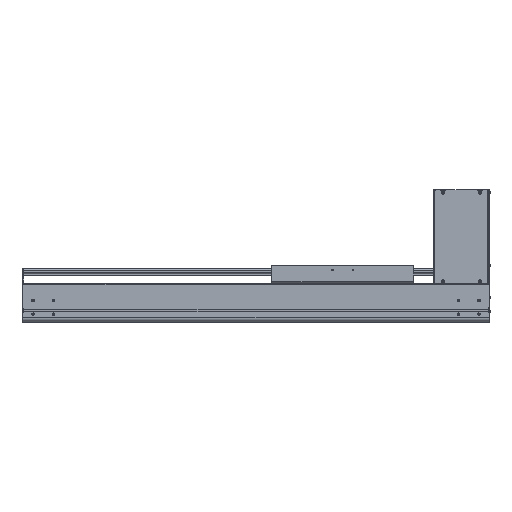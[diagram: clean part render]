
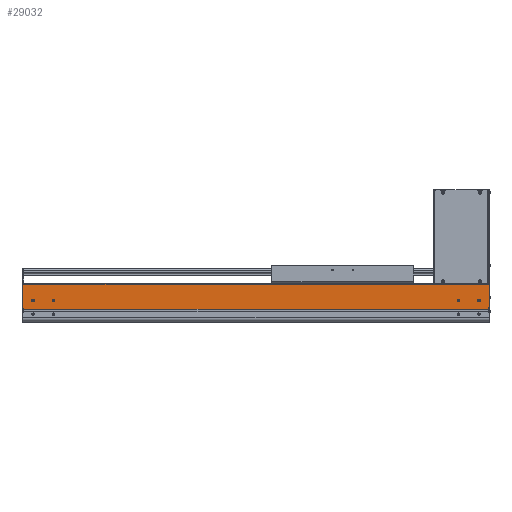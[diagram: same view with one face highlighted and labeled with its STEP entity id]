
A CAD part, top view. The second image highlights one B-rep face of the part: STEP entity #29032.
In plain terms, the highlighted planar face has unit normal (0, 0, 1).
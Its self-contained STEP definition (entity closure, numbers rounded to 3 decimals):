
#534=CARTESIAN_POINT('',(0.,94.,107.));
#7982=DIRECTION('',(-1.,0.,0.));
#7983=VECTOR('',#7982,1148.5);
#7984=CARTESIAN_POINT('',(0.,93.5,107.));
#7985=LINE('',#7984,#7983);
#8012=CARTESIAN_POINT('',(-1123.5,54.,107.));
#8013=DIRECTION('',(0.,0.,-1.));
#8014=DIRECTION('',(1.,0.,0.));
#8015=AXIS2_PLACEMENT_3D('',#8012,#8013,#8014);
#8017=CARTESIAN_POINT('',(-1123.5,54.,107.));
#8018=DIRECTION('',(0.,0.,-1.));
#8019=DIRECTION('',(-1.,0.,0.));
#8020=AXIS2_PLACEMENT_3D('',#8017,#8018,#8019);
#8022=CARTESIAN_POINT('',(-1073.5,54.,107.));
#8023=DIRECTION('',(0.,0.,-1.));
#8024=DIRECTION('',(1.,0.,0.));
#8025=AXIS2_PLACEMENT_3D('',#8022,#8023,#8024);
#8027=CARTESIAN_POINT('',(-1073.5,54.,107.));
#8028=DIRECTION('',(0.,0.,-1.));
#8029=DIRECTION('',(-1.,0.,0.));
#8030=AXIS2_PLACEMENT_3D('',#8027,#8028,#8029);
#8032=CARTESIAN_POINT('',(-23.5,54.,107.));
#8033=DIRECTION('',(0.,0.,-1.));
#8034=DIRECTION('',(1.,0.,0.));
#8035=AXIS2_PLACEMENT_3D('',#8032,#8033,#8034);
#8037=CARTESIAN_POINT('',(-23.5,54.,107.));
#8038=DIRECTION('',(0.,0.,-1.));
#8039=DIRECTION('',(-1.,0.,0.));
#8040=AXIS2_PLACEMENT_3D('',#8037,#8038,#8039);
#8042=CARTESIAN_POINT('',(-73.5,54.,107.));
#8043=DIRECTION('',(0.,0.,-1.));
#8044=DIRECTION('',(1.,0.,0.));
#8045=AXIS2_PLACEMENT_3D('',#8042,#8043,#8044);
#8047=CARTESIAN_POINT('',(-73.5,54.,107.));
#8048=DIRECTION('',(0.,0.,-1.));
#8049=DIRECTION('',(-1.,0.,0.));
#8050=AXIS2_PLACEMENT_3D('',#8047,#8048,#8049);
#8052=DIRECTION('',(0.,-1.,0.));
#8053=VECTOR('',#8052,2.55);
#8054=CARTESIAN_POINT('',(-1146.5,34.65,107.));
#8055=LINE('',#8054,#8053);
#8056=DIRECTION('',(0.,-1.,0.));
#8057=VECTOR('',#8056,58.85);
#8058=CARTESIAN_POINT('',(-1148.5,93.5,107.));
#8059=LINE('',#8058,#8057);
#8060=DIRECTION('',(0.,-1.,0.));
#8061=VECTOR('',#8060,0.5);
#8062=CARTESIAN_POINT('',(0.,94.,107.));
#8063=LINE('',#8062,#8061);
#8064=DIRECTION('',(0.,1.,0.));
#8065=VECTOR('',#8064,58.35);
#8066=CARTESIAN_POINT('',(1.5,35.65,107.));
#8067=LINE('',#8066,#8065);
#8068=DIRECTION('',(0.,1.,0.));
#8069=VECTOR('',#8068,3.55);
#8070=CARTESIAN_POINT('',(0.,32.1,107.));
#8071=LINE('',#8070,#8069);
#8072=DIRECTION('',(1.,0.,0.));
#8073=VECTOR('',#8072,1146.5);
#8074=CARTESIAN_POINT('',(-1146.5,32.1,107.));
#8075=LINE('',#8074,#8073);
#8184=DIRECTION('',(1.,0.,0.));
#8185=VECTOR('',#8184,2.);
#8186=CARTESIAN_POINT('',(-1148.5,34.65,107.));
#8187=LINE('',#8186,#8185);
#8212=DIRECTION('',(-1.,0.,0.));
#8213=VECTOR('',#8212,1.5);
#8214=CARTESIAN_POINT('',(1.5,94.,107.));
#8215=LINE('',#8214,#8213);
#8216=DIRECTION('',(1.,0.,0.));
#8217=VECTOR('',#8216,1.5);
#8218=CARTESIAN_POINT('',(0.,35.65,107.));
#8219=LINE('',#8218,#8217);
#14908=CARTESIAN_POINT('',(1.5,94.,107.));
#14909=VERTEX_POINT('',#14908);
#14910=CARTESIAN_POINT('',(1.5,35.65,107.));
#14911=VERTEX_POINT('',#14910);
#14952=VERTEX_POINT('',#534);
#14984=CARTESIAN_POINT('',(-1148.5,34.65,107.));
#14985=VERTEX_POINT('',#14984);
#14986=CARTESIAN_POINT('',(-1148.5,93.5,107.));
#14987=VERTEX_POINT('',#14986);
#15212=CARTESIAN_POINT('',(-1146.5,32.1,107.));
#15213=VERTEX_POINT('',#15212);
#15263=CARTESIAN_POINT('',(0.,32.1,107.));
#15265=VERTEX_POINT('',#15263);
#15686=CARTESIAN_POINT('',(-1121.,54.,107.));
#15687=CARTESIAN_POINT('',(-1126.,54.,107.));
#15688=VERTEX_POINT('',#15686);
#15689=VERTEX_POINT('',#15687);
#15690=CARTESIAN_POINT('',(-1071.,54.,107.));
#15691=CARTESIAN_POINT('',(-1076.,54.,107.));
#15692=VERTEX_POINT('',#15690);
#15693=VERTEX_POINT('',#15691);
#15694=CARTESIAN_POINT('',(-21.,54.,107.));
#15695=CARTESIAN_POINT('',(-26.,54.,107.));
#15696=VERTEX_POINT('',#15694);
#15697=VERTEX_POINT('',#15695);
#15698=CARTESIAN_POINT('',(-71.,54.,107.));
#15699=CARTESIAN_POINT('',(-76.,54.,107.));
#15700=VERTEX_POINT('',#15698);
#15701=VERTEX_POINT('',#15699);
#17536=CARTESIAN_POINT('',(0.,35.65,107.));
#17537=VERTEX_POINT('',#17536);
#17782=CARTESIAN_POINT('',(0.,93.5,107.));
#17783=VERTEX_POINT('',#17782);
#18125=CARTESIAN_POINT('',(-1146.5,34.65,107.));
#18126=VERTEX_POINT('',#18125);
#28987=CARTESIAN_POINT('',(-573.25,62.8,107.));
#28988=DIRECTION('',(0.,0.,1.));
#28989=DIRECTION('',(0.,-1.,0.));
#28990=AXIS2_PLACEMENT_3D('',#28987,#28988,#28989);
#28991=PLANE('',#28990);
#28992=ORIENTED_EDGE('',*,*,#20232,.F.);
#28994=ORIENTED_EDGE('',*,*,#28993,.F.);
#28995=ORIENTED_EDGE('',*,*,#26605,.F.);
#28996=ORIENTED_EDGE('',*,*,#28976,.F.);
#28997=ORIENTED_EDGE('',*,*,#19345,.F.);
#28999=ORIENTED_EDGE('',*,*,#28998,.F.);
#29000=ORIENTED_EDGE('',*,*,#21231,.F.);
#29002=ORIENTED_EDGE('',*,*,#29001,.F.);
#29003=ORIENTED_EDGE('',*,*,#20993,.F.);
#29005=ORIENTED_EDGE('',*,*,#29004,.F.);
#29006=EDGE_LOOP('',(#28992,#28994,#28995,#28996,#28997,#28999,#29000,#29002,
#29003,#29005));
#29007=FACE_OUTER_BOUND('',#29006,.F.);
#29009=ORIENTED_EDGE('',*,*,#29008,.F.);
#29011=ORIENTED_EDGE('',*,*,#29010,.F.);
#29012=EDGE_LOOP('',(#29009,#29011));
#29013=FACE_BOUND('',#29012,.F.);
#29015=ORIENTED_EDGE('',*,*,#29014,.F.);
#29017=ORIENTED_EDGE('',*,*,#29016,.F.);
#29018=EDGE_LOOP('',(#29015,#29017));
#29019=FACE_BOUND('',#29018,.F.);
#29021=ORIENTED_EDGE('',*,*,#29020,.F.);
#29023=ORIENTED_EDGE('',*,*,#29022,.F.);
#29024=EDGE_LOOP('',(#29021,#29023));
#29025=FACE_BOUND('',#29024,.F.);
#29027=ORIENTED_EDGE('',*,*,#29026,.F.);
#29029=ORIENTED_EDGE('',*,*,#29028,.F.);
#29030=EDGE_LOOP('',(#29027,#29029));
#29031=FACE_BOUND('',#29030,.F.);
#29032=ADVANCED_FACE('',(#29007,#29013,#29019,#29025,#29031),#28991,.T.);
#8016=CIRCLE('',#8015,2.5);
#8021=CIRCLE('',#8020,2.5);
#8026=CIRCLE('',#8025,2.5);
#8031=CIRCLE('',#8030,2.5);
#8036=CIRCLE('',#8035,2.5);
#8041=CIRCLE('',#8040,2.5);
#8046=CIRCLE('',#8045,2.5);
#8051=CIRCLE('',#8050,2.5);
#19345=EDGE_CURVE('',#14952,#17783,#8063,.T.);
#20232=EDGE_CURVE('',#18126,#15213,#8055,.T.);
#20993=EDGE_CURVE('',#15265,#17537,#8071,.T.);
#21231=EDGE_CURVE('',#14911,#14909,#8067,.T.);
#26605=EDGE_CURVE('',#14987,#14985,#8059,.T.);
#28976=EDGE_CURVE('',#17783,#14987,#7985,.T.);
#28993=EDGE_CURVE('',#14985,#18126,#8187,.T.);
#28998=EDGE_CURVE('',#14909,#14952,#8215,.T.);
#29001=EDGE_CURVE('',#17537,#14911,#8219,.T.);
#29004=EDGE_CURVE('',#15213,#15265,#8075,.T.);
#29008=EDGE_CURVE('',#15692,#15693,#8026,.T.);
#29010=EDGE_CURVE('',#15693,#15692,#8031,.T.);
#29014=EDGE_CURVE('',#15696,#15697,#8036,.T.);
#29016=EDGE_CURVE('',#15697,#15696,#8041,.T.);
#29020=EDGE_CURVE('',#15700,#15701,#8046,.T.);
#29022=EDGE_CURVE('',#15701,#15700,#8051,.T.);
#29026=EDGE_CURVE('',#15688,#15689,#8016,.T.);
#29028=EDGE_CURVE('',#15689,#15688,#8021,.T.);
